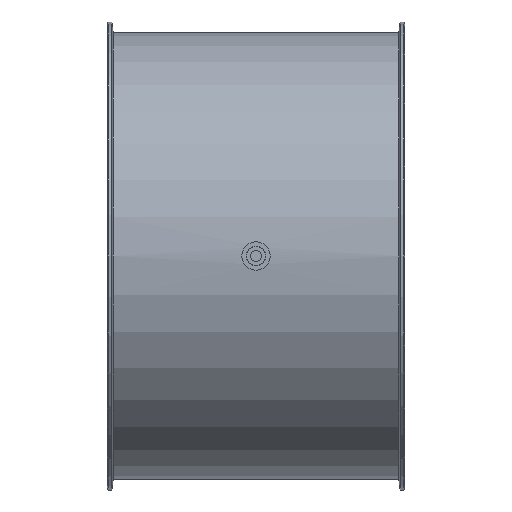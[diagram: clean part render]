
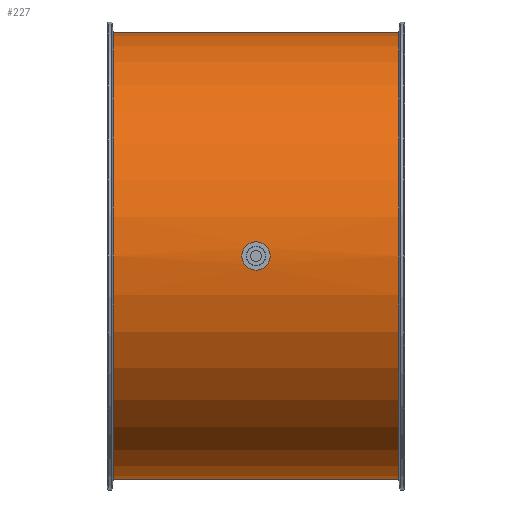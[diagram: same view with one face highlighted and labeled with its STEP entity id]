
A CAD part, front view. The second image highlights one B-rep face of the part: STEP entity #227.
In plain terms, the highlighted cylindrical face has radius 301 mm (diameter 602 mm), a full revolution.
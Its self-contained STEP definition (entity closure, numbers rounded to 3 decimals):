
#101=B_SPLINE_CURVE_WITH_KNOTS('',3,(#1861,#1862,#1863,#1864,#1865,#1866,
#1867,#1868,#1869,#1870,#1871,#1872,#1873,#1874,#1875,#1876,#1877,#1878),
 .UNSPECIFIED.,.T.,.F.,(2,2,2,2,2,2,2,2,2,2,2),(-0.125,0.,0.125,0.25,
0.375,0.5,0.625,0.75,0.875,1.,1.125),.UNSPECIFIED.);
#102=B_SPLINE_CURVE_WITH_KNOTS('',3,(#1880,#1881,#1882,#1883,#1884,#1885,
#1886,#1887,#1888,#1889,#1890,#1891,#1892,#1893,#1894,#1895,#1896,#1897),
 .UNSPECIFIED.,.T.,.F.,(2,2,2,2,2,2,2,2,2,2,2),(-0.125,0.,0.125,0.25,
0.375,0.5,0.625,0.75,0.875,1.,1.125),.UNSPECIFIED.);
#137=CYLINDRICAL_SURFACE('',#1269,301.);
#227=ADVANCED_FACE('',(#429,#430,#431,#432),#137,.T.);
#429=FACE_BOUND('',#567,.T.);
#430=FACE_BOUND('',#568,.T.);
#431=FACE_BOUND('',#569,.T.);
#432=FACE_BOUND('',#570,.T.);
#567=EDGE_LOOP('',(#797));
#568=EDGE_LOOP('',(#798));
#569=EDGE_LOOP('',(#799));
#570=EDGE_LOOP('',(#800));
#797=ORIENTED_EDGE('',*,*,#1070,.F.);
#798=ORIENTED_EDGE('',*,*,#1072,.F.);
#799=ORIENTED_EDGE('',*,*,#1073,.F.);
#800=ORIENTED_EDGE('',*,*,#1074,.F.);
#950=VERTEX_POINT('',#1854);
#952=VERTEX_POINT('',#1859);
#953=VERTEX_POINT('',#1879);
#954=VERTEX_POINT('',#1898);
#1070=EDGE_CURVE('',#950,#950,#1154,.T.);
#1072=EDGE_CURVE('',#952,#952,#1156,.T.);
#1073=EDGE_CURVE('',#953,#953,#101,.T.);
#1074=EDGE_CURVE('',#954,#954,#102,.T.);
#1154=CIRCLE('',#1264,301.);
#1156=CIRCLE('',#1267,301.);
#1264=AXIS2_PLACEMENT_3D('',#1853,#1523,#1524);
#1267=AXIS2_PLACEMENT_3D('',#1858,#1529,#1530);
#1269=AXIS2_PLACEMENT_3D('',#1899,#1533,#1534);
#1523=DIRECTION('',(1.,0.,0.));
#1524=DIRECTION('',(0.,0.,-1.));
#1529=DIRECTION('',(-1.,0.,0.));
#1530=DIRECTION('',(0.,0.,1.));
#1533=DIRECTION('',(1.,0.,0.));
#1534=DIRECTION('',(0.,0.,-1.));
#1853=CARTESIAN_POINT('',(192.133,-109.,125.));
#1854=CARTESIAN_POINT('',(192.133,-109.,-176.));
#1858=CARTESIAN_POINT('',(-192.133,-109.,125.));
#1859=CARTESIAN_POINT('',(-192.133,-109.,426.));
#1861=CARTESIAN_POINT('',(3.436,191.719,112.));
#1862=CARTESIAN_POINT('',(-3.436,191.719,112.));
#1863=CARTESIAN_POINT('',(-6.795,191.786,113.41));
#1864=CARTESIAN_POINT('',(-11.591,191.933,118.207));
#1865=CARTESIAN_POINT('',(-12.998,192.,121.601));
#1866=CARTESIAN_POINT('',(-13.002,192.,128.385));
#1867=CARTESIAN_POINT('',(-11.623,191.934,131.76));
#1868=CARTESIAN_POINT('',(-6.771,191.786,136.616));
#1869=CARTESIAN_POINT('',(-3.398,191.719,137.999));
#1870=CARTESIAN_POINT('',(3.389,191.719,138.001));
#1871=CARTESIAN_POINT('',(6.784,191.786,136.596));
#1872=CARTESIAN_POINT('',(11.583,191.933,131.806));
#1873=CARTESIAN_POINT('',(12.997,192.,128.443));
#1874=CARTESIAN_POINT('',(13.003,192.,121.583));
#1875=CARTESIAN_POINT('',(11.598,191.933,118.217));
#1876=CARTESIAN_POINT('',(6.802,191.786,113.413));
#1877=CARTESIAN_POINT('',(3.436,191.719,112.));
#1878=CARTESIAN_POINT('',(-3.436,191.719,112.));
#1879=CARTESIAN_POINT('',(0.,191.719,112.));
#1880=CARTESIAN_POINT('',(-3.436,-409.719,112.));
#1881=CARTESIAN_POINT('',(3.436,-409.719,112.));
#1882=CARTESIAN_POINT('',(6.795,-409.786,113.41));
#1883=CARTESIAN_POINT('',(11.591,-409.933,118.207));
#1884=CARTESIAN_POINT('',(12.998,-410.,121.601));
#1885=CARTESIAN_POINT('',(13.002,-410.,128.385));
#1886=CARTESIAN_POINT('',(11.623,-409.934,131.76));
#1887=CARTESIAN_POINT('',(6.771,-409.786,136.616));
#1888=CARTESIAN_POINT('',(3.398,-409.719,137.999));
#1889=CARTESIAN_POINT('',(-3.389,-409.719,138.001));
#1890=CARTESIAN_POINT('',(-6.784,-409.786,136.596));
#1891=CARTESIAN_POINT('',(-11.583,-409.933,131.806));
#1892=CARTESIAN_POINT('',(-12.997,-410.,128.443));
#1893=CARTESIAN_POINT('',(-13.003,-410.,121.583));
#1894=CARTESIAN_POINT('',(-11.598,-409.933,118.217));
#1895=CARTESIAN_POINT('',(-6.802,-409.786,113.413));
#1896=CARTESIAN_POINT('',(-3.436,-409.719,112.));
#1897=CARTESIAN_POINT('',(3.436,-409.719,112.));
#1898=CARTESIAN_POINT('',(0.,-409.719,112.));
#1899=CARTESIAN_POINT('',(-200.,-109.,125.));
